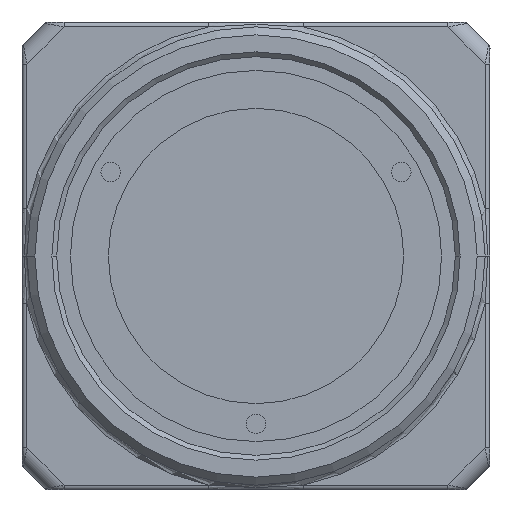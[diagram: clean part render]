
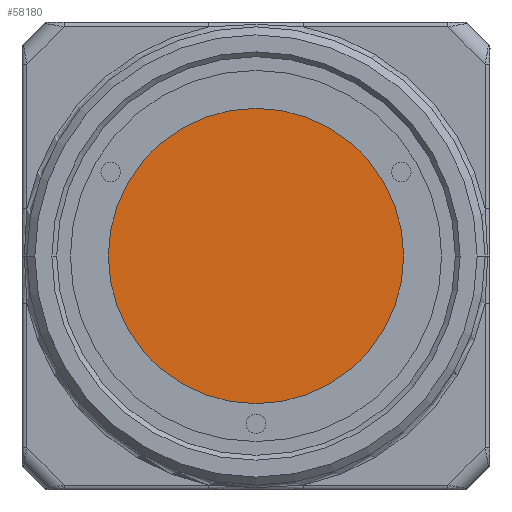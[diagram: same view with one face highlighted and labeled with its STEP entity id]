
A CAD part, left-side view. The second image highlights one B-rep face of the part: STEP entity #58180.
In plain terms, the highlighted planar face has unit normal (-1, 0, 0).
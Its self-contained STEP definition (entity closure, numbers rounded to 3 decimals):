
#21286=CARTESIAN_POINT('',(0.1,0.,0.));
#21287=DIRECTION('',(1.,0.,0.));
#21288=DIRECTION('',(0.,1.,0.));
#21289=AXIS2_PLACEMENT_3D('',#21286,#21287,#21288);
#21291=CARTESIAN_POINT('',(0.1,0.,0.));
#21292=DIRECTION('',(1.,0.,0.));
#21293=DIRECTION('',(0.,-1.,0.));
#21294=AXIS2_PLACEMENT_3D('',#21291,#21292,#21293);
#29120=CARTESIAN_POINT('',(0.1,9.15,0.));
#29121=CARTESIAN_POINT('',(0.1,-9.15,0.));
#29122=VERTEX_POINT('',#29120);
#29123=VERTEX_POINT('',#29121);
#58170=CARTESIAN_POINT('',(0.1,0.,0.));
#58171=DIRECTION('',(1.,0.,0.));
#58172=DIRECTION('',(0.,-1.,0.));
#58173=AXIS2_PLACEMENT_3D('',#58170,#58171,#58172);
#58174=PLANE('',#58173);
#58175=ORIENTED_EDGE('',*,*,#58160,.T.);
#58177=ORIENTED_EDGE('',*,*,#58176,.T.);
#58178=EDGE_LOOP('',(#58175,#58177));
#58179=FACE_OUTER_BOUND('',#58178,.F.);
#58180=ADVANCED_FACE('',(#58179),#58174,.F.);
#21290=CIRCLE('',#21289,9.15);
#21295=CIRCLE('',#21294,9.15);
#58160=EDGE_CURVE('',#29122,#29123,#21290,.T.);
#58176=EDGE_CURVE('',#29123,#29122,#21295,.T.);
